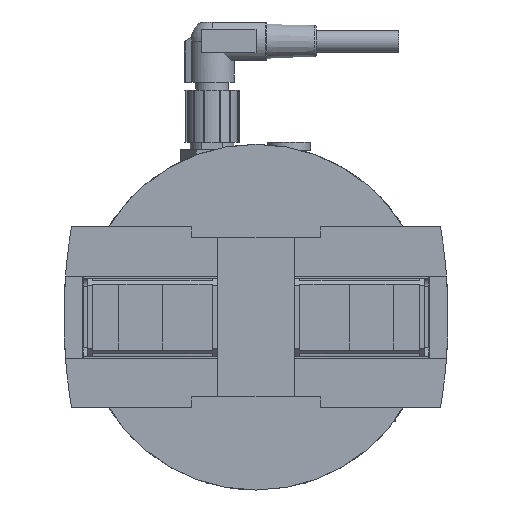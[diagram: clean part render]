
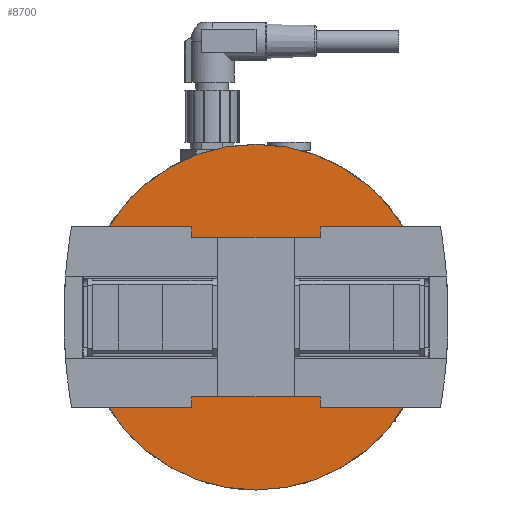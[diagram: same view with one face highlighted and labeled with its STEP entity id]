
A CAD part, front view. The second image highlights one B-rep face of the part: STEP entity #8700.
In plain terms, the highlighted planar face has unit normal (0, -1, 0).
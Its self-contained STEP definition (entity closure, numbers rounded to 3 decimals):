
#277=CIRCLE('',#9330,2.);
#278=CIRCLE('',#9331,31.5);
#279=CIRCLE('',#9332,2.);
#607=ORIENTED_EDGE('',*,*,#3103,.T.);
#608=ORIENTED_EDGE('',*,*,#3104,.T.);
#609=ORIENTED_EDGE('',*,*,#3105,.T.);
#610=ORIENTED_EDGE('',*,*,#3106,.T.);
#611=ORIENTED_EDGE('',*,*,#3107,.T.);
#612=ORIENTED_EDGE('',*,*,#3108,.T.);
#613=ORIENTED_EDGE('',*,*,#3109,.T.);
#614=ORIENTED_EDGE('',*,*,#3110,.T.);
#615=ORIENTED_EDGE('',*,*,#3111,.T.);
#3103=EDGE_CURVE('',#4351,#4352,#5215,.T.);
#3104=EDGE_CURVE('',#4352,#4353,#277,.T.);
#3105=EDGE_CURVE('',#4353,#4354,#5216,.T.);
#3106=EDGE_CURVE('',#4354,#4351,#5217,.T.);
#3107=EDGE_CURVE('',#4355,#4355,#278,.T.);
#3108=EDGE_CURVE('',#4356,#4357,#5218,.T.);
#3109=EDGE_CURVE('',#4357,#4358,#279,.T.);
#3110=EDGE_CURVE('',#4358,#4359,#5219,.T.);
#3111=EDGE_CURVE('',#4359,#4356,#5220,.T.);
#4351=VERTEX_POINT('',#12848);
#4352=VERTEX_POINT('',#12849);
#4353=VERTEX_POINT('',#12851);
#4354=VERTEX_POINT('',#12853);
#4355=VERTEX_POINT('',#12856);
#4356=VERTEX_POINT('',#12858);
#4357=VERTEX_POINT('',#12859);
#4358=VERTEX_POINT('',#12861);
#4359=VERTEX_POINT('',#12863);
#5215=LINE('',#12847,#6104);
#5216=LINE('',#12852,#6105);
#5217=LINE('',#12854,#6106);
#5218=LINE('',#12857,#6107);
#5219=LINE('',#12862,#6108);
#5220=LINE('',#12864,#6109);
#6104=VECTOR('',#10208,1000.);
#6105=VECTOR('',#10211,1000.);
#6106=VECTOR('',#10212,1000.);
#6107=VECTOR('',#10215,1000.);
#6108=VECTOR('',#10218,1000.);
#6109=VECTOR('',#10219,1000.);
#6993=EDGE_LOOP('',(#607,#608,#609,#610));
#6994=EDGE_LOOP('',(#611));
#6995=EDGE_LOOP('',(#612,#613,#614,#615));
#7665=FACE_BOUND('',#6993,.T.);
#7666=FACE_BOUND('',#6994,.T.);
#7667=FACE_BOUND('',#6995,.T.);
#8341=PLANE('',#9329);
#8700=ADVANCED_FACE('',(#7665,#7666,#7667),#8341,.F.);
#9329=AXIS2_PLACEMENT_3D('',#12846,#10206,#10207);
#9330=AXIS2_PLACEMENT_3D('',#12850,#10209,#10210);
#9331=AXIS2_PLACEMENT_3D('',#12855,#10213,#10214);
#9332=AXIS2_PLACEMENT_3D('',#12860,#10216,#10217);
#10206=DIRECTION('',(0.,1.,0.));
#10207=DIRECTION('',(0.,0.,1.));
#10208=DIRECTION('',(0.,0.,1.));
#10209=DIRECTION('',(0.,1.,0.));
#10210=DIRECTION('',(1.,0.,0.));
#10211=DIRECTION('',(0.,0.,-1.));
#10212=DIRECTION('',(-1.,0.,0.));
#10213=DIRECTION('',(0.,-1.,0.));
#10214=DIRECTION('',(0.,0.,-1.));
#10215=DIRECTION('',(0.,0.,1.));
#10216=DIRECTION('',(0.,1.,0.));
#10217=DIRECTION('',(1.,0.,0.));
#10218=DIRECTION('',(0.,0.,-1.));
#10219=DIRECTION('',(-1.,0.,0.));
#12846=CARTESIAN_POINT('',(31.5,-49.,0.));
#12847=CARTESIAN_POINT('',(7.,-49.,-13.5));
#12848=CARTESIAN_POINT('',(7.,-49.,-13.5));
#12849=CARTESIAN_POINT('',(7.,-49.,-10.75));
#12850=CARTESIAN_POINT('',(9.,-49.,-10.75));
#12851=CARTESIAN_POINT('',(11.,-49.,-10.75));
#12852=CARTESIAN_POINT('',(11.,-49.,-10.75));
#12853=CARTESIAN_POINT('',(11.,-49.,-13.5));
#12854=CARTESIAN_POINT('',(11.,-49.,-13.5));
#12855=CARTESIAN_POINT('',(0.,-49.,0.));
#12856=CARTESIAN_POINT('',(0.,-49.,-31.5));
#12857=CARTESIAN_POINT('',(-11.,-49.,-13.5));
#12858=CARTESIAN_POINT('',(-11.,-49.,-13.5));
#12859=CARTESIAN_POINT('',(-11.,-49.,-10.5));
#12860=CARTESIAN_POINT('',(-9.,-49.,-10.5));
#12861=CARTESIAN_POINT('',(-7.,-49.,-10.5));
#12862=CARTESIAN_POINT('',(-7.,-49.,-10.5));
#12863=CARTESIAN_POINT('',(-7.,-49.,-13.5));
#12864=CARTESIAN_POINT('',(-7.,-49.,-13.5));
